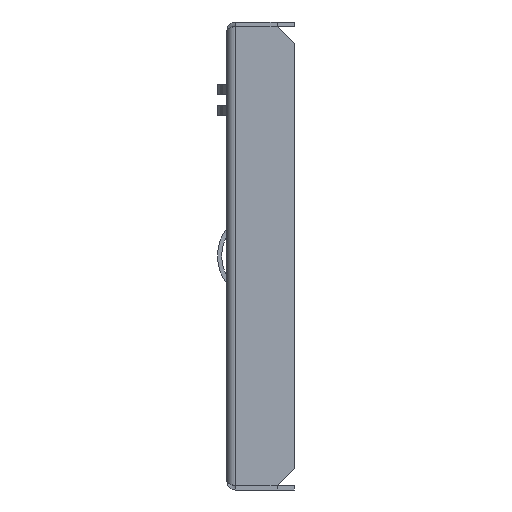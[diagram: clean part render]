
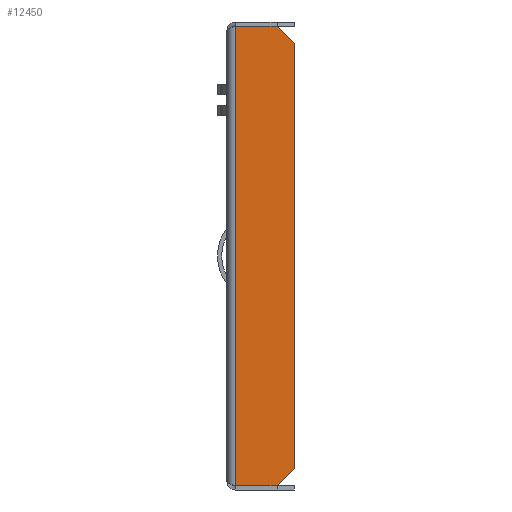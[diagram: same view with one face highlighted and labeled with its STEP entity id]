
A CAD part, left-side view. The second image highlights one B-rep face of the part: STEP entity #12450.
In plain terms, the highlighted planar face has unit normal (-1, 0, 0).
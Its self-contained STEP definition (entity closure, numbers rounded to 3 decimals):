
#101=DIRECTION('',(0.,-0.707,0.707));
#102=VECTOR('',#101,7.071);
#103=CARTESIAN_POINT('',(-96.5,-14.5,-66.3));
#104=LINE('',#103,#102);
#108=DIRECTION('',(0.,-1.,0.));
#109=VECTOR('',#108,12.1);
#110=CARTESIAN_POINT('',(-96.5,-2.4,-66.3));
#111=LINE('',#110,#109);
#115=DIRECTION('',(0.,0.707,0.707));
#116=VECTOR('',#115,7.071);
#117=CARTESIAN_POINT('',(-96.5,-19.5,61.3));
#118=LINE('',#117,#116);
#129=DIRECTION('',(0.,0.,1.));
#130=VECTOR('',#129,122.6);
#131=CARTESIAN_POINT('',(-96.5,-19.5,-61.3));
#132=LINE('',#131,#130);
#157=DIRECTION('',(0.,-1.,0.));
#158=VECTOR('',#157,12.1);
#159=CARTESIAN_POINT('',(-96.5,-2.4,66.3));
#160=LINE('',#159,#158);
#188=CARTESIAN_POINT('',(-96.5,-2.4,66.3));
#222=DIRECTION('',(0.,0.,1.));
#223=VECTOR('',#222,132.6);
#224=CARTESIAN_POINT('',(-96.5,-2.4,-66.3));
#225=LINE('',#224,#223);
#10579=VERTEX_POINT('',#188);
#10580=CARTESIAN_POINT('',(-96.5,-2.4,-66.3));
#10581=VERTEX_POINT('',#10580);
#10623=CARTESIAN_POINT('',(-96.5,-14.5,-66.3));
#10624=CARTESIAN_POINT('',(-96.5,-19.5,-61.3));
#10625=VERTEX_POINT('',#10623);
#10626=VERTEX_POINT('',#10624);
#10663=CARTESIAN_POINT('',(-96.5,-19.5,61.3));
#10664=CARTESIAN_POINT('',(-96.5,-14.5,66.3));
#10665=VERTEX_POINT('',#10663);
#10666=VERTEX_POINT('',#10664);
#12431=CARTESIAN_POINT('',(-96.5,0.,-67.5));
#12432=DIRECTION('',(-1.,0.,0.));
#12433=DIRECTION('',(0.,0.,1.));
#12434=AXIS2_PLACEMENT_3D('',#12431,#12432,#12433);
#12435=PLANE('',#12434);
#12437=ORIENTED_EDGE('',*,*,#12436,.F.);
#12439=ORIENTED_EDGE('',*,*,#12438,.F.);
#12441=ORIENTED_EDGE('',*,*,#12440,.T.);
#12443=ORIENTED_EDGE('',*,*,#12442,.T.);
#12445=ORIENTED_EDGE('',*,*,#12444,.F.);
#12447=ORIENTED_EDGE('',*,*,#12446,.F.);
#12448=EDGE_LOOP('',(#12437,#12439,#12441,#12443,#12445,#12447));
#12449=FACE_OUTER_BOUND('',#12448,.F.);
#12436=EDGE_CURVE('',#10625,#10626,#104,.T.);
#12438=EDGE_CURVE('',#10581,#10625,#111,.T.);
#12440=EDGE_CURVE('',#10581,#10579,#225,.T.);
#12442=EDGE_CURVE('',#10579,#10666,#160,.T.);
#12444=EDGE_CURVE('',#10665,#10666,#118,.T.);
#12446=EDGE_CURVE('',#10626,#10665,#132,.T.);
#12450=ADVANCED_FACE('',(#12449),#12435,.T.);
